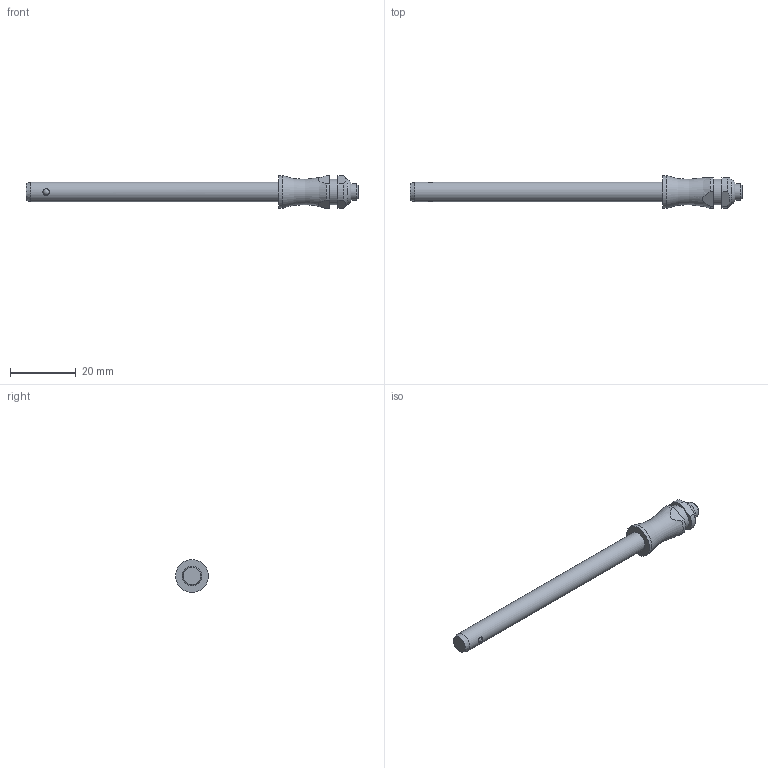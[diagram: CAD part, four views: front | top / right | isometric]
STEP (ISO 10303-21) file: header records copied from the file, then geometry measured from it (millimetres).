
FILE_DESCRIPTION( ( 'STEP AP203' ), '1' );
FILE_NAME( 'C:/Temp/Ganter_Step_05_03_2020/data/3_1/gn113_3/Stainless Steel-Ball lock pin GN 113.3-6-70 (activated).stp', '2020-03-12T08:18:21', ( 'License CC BY-ND 4.0' ), ( 'CADENAS' ), ' ', 'PARTsolutions', ' ' );
FILE_SCHEMA( ( 'CONFIG_CONTROL_DESIGN' ) );
Length unit declared in the file: millimetre
Products named in the file (1): _Stainless Steel-Ball lock pin GN 113.3-6-70 (activated)
Bounding box: 101.15 x 10 x 10 mm (x, y, z)
Volume: 3468.4 mm3; surface area: 2253.2 mm2
Topology: 1 solids, 1 shells, 31 faces, 73 edges, 46 vertices
Faces by surface type: plane 12, cylinder 12, cone 3, torus 2, sphere 2
Full cylindrical faces by diameter (mm): 2 x2, 5 x1, 6 x1, 7.9 x1, 10 x1
Entity records: 962 total; most frequent: CARTESIAN_POINT 298, DIRECTION 134, ORIENTED_EDGE 104, AXIS2_PLACEMENT_3D 58, EDGE_CURVE 52, EDGE_LOOP 48, VERTEX_POINT 40, FACE_OUTER_BOUND 39
